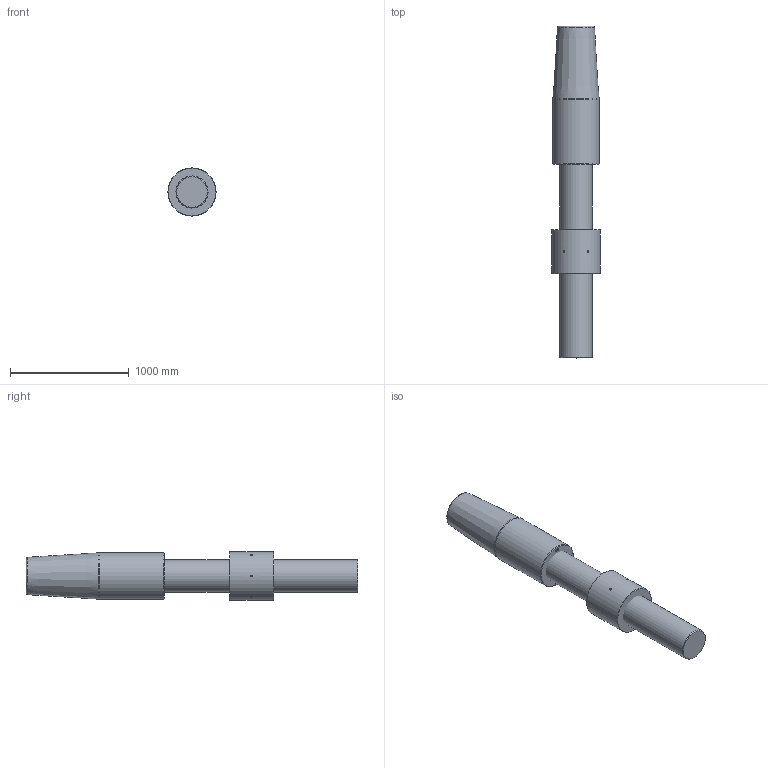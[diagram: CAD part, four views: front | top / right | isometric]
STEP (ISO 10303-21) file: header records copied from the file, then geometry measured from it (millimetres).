
FILE_DESCRIPTION(/* description */ (''),/* implementation_level */ '2;1');
FILE_NAME(/* name */ 'C:\Users\ranca\Desktop\CYM\ARRANGEMENT\CYM136 52 061 0.stp',/* time_stamp */ '2021-04-23T21:18:01+02:00',/* author */ ('ranca'),/* organization */ (''),/* preprocessor_version */ 'ST-DEVELOPER v16.13',/* originating_system */ 'Autodesk Inventor 2018',/* authorisation */ '');
FILE_SCHEMA (('AUTOMOTIVE_DESIGN { 1 0 10303 214 3 1 1 }'));
Length unit declared in the file: millimetre
Products named in the file (4): CYM136-52-061-0; CYM012-52-061-0_ROD; CYC136 52 065 0_CYL SOK_RH; CYM136-41-051-0
Assembly tree (3 placements, depth 2):
  CYM136-52-061-0
    CYM012-52-061-0_ROD
    CYC136 52 065 0_CYL SOK_RH
    CYM136-41-051-0
Bounding box: 405 x 2792 x 405 mm (x, y, z)
Volume: 287435002.7 mm3; surface area: 4076962.8 mm2
Topology: 3 solids, 3 shells, 559 faces, 1525 edges, 1014 vertices
Faces by surface type: bspline 293, plane 244, cone 11, cylinder 9, torus 2
Full cylindrical faces by diameter (mm): 15 x6, 270 x1, 390 x1, 405 x1
Entity records: 19228 total; most frequent: CARTESIAN_POINT 7104, ORIENTED_EDGE 2992, EDGE_CURVE 1496, DIRECTION 1467, VERTEX_POINT 1008, LINE 877, VECTOR 877, EDGE_LOOP 624
